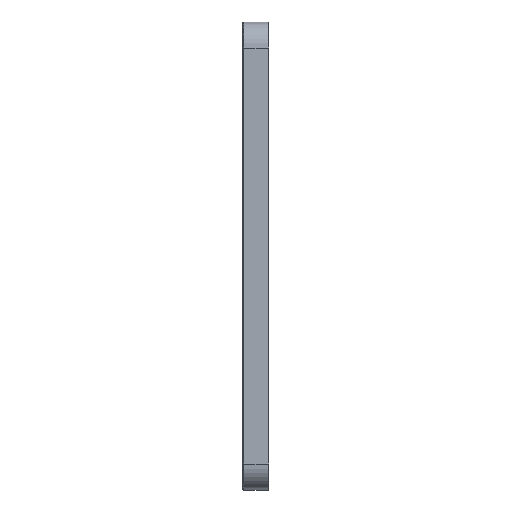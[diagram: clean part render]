
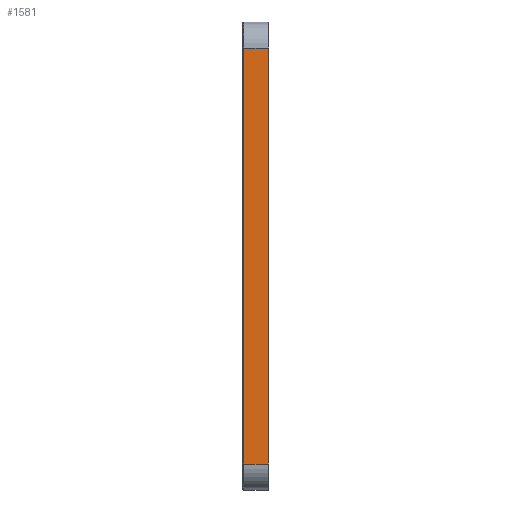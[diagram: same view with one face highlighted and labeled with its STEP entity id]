
A CAD part, left-side view. The second image highlights one B-rep face of the part: STEP entity #1581.
In plain terms, the highlighted planar face has unit normal (-1, 0, 0).
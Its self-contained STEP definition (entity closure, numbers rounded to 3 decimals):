
#10 = LINE ( 'NONE', #1324, #1430 ) ;
#56 = DIRECTION ( 'NONE',  ( 1., 0., 0. ) ) ;
#366 = EDGE_CURVE ( 'NONE', #1678, #2601, #10, .T. ) ;
#562 = LINE ( 'NONE', #615, #583 ) ;
#583 = VECTOR ( 'NONE', #1415, 1000. ) ;
#611 = ORIENTED_EDGE ( 'NONE', *, *, #1811, .T. ) ;
#615 = CARTESIAN_POINT ( 'NONE',  ( -150., 9.7, -80. ) ) ;
#810 = CARTESIAN_POINT ( 'NONE',  ( -150., 9.7, 80. ) ) ;
#854 = PLANE ( 'NONE',  #1155 ) ;
#865 = DIRECTION ( 'NONE',  ( 0., 0., -1. ) ) ;
#1088 = LINE ( 'NONE', #1909, #1871 ) ;
#1091 = ORIENTED_EDGE ( 'NONE', *, *, #2753, .T. ) ;
#1155 = AXIS2_PLACEMENT_3D ( 'NONE', #1926, #56, #865 ) ;
#1170 = VERTEX_POINT ( 'NONE', #810 ) ;
#1271 = ORIENTED_EDGE ( 'NONE', *, *, #1531, .T. ) ;
#1281 = DIRECTION ( 'NONE',  ( 0., -1., 0. ) ) ;
#1324 = CARTESIAN_POINT ( 'NONE',  ( -150., 0.3, -90. ) ) ;
#1338 = CARTESIAN_POINT ( 'NONE',  ( -150., 9.7, -80. ) ) ;
#1415 = DIRECTION ( 'NONE',  ( 0., 0., -1. ) ) ;
#1430 = VECTOR ( 'NONE', #2348, 1000. ) ;
#1531 = EDGE_CURVE ( 'NONE', #2601, #1170, #1088, .T. ) ;
#1581 = ADVANCED_FACE ( 'NONE', ( #1938 ), #854, .F. ) ;
#1678 = VERTEX_POINT ( 'NONE', #1796 ) ;
#1796 = CARTESIAN_POINT ( 'NONE',  ( -150., 0.3, -80. ) ) ;
#1811 = EDGE_CURVE ( 'NONE', #1170, #2398, #562, .T. ) ;
#1871 = VECTOR ( 'NONE', #2133, 1000. ) ;
#1909 = CARTESIAN_POINT ( 'NONE',  ( -150., 10., 80. ) ) ;
#1926 = CARTESIAN_POINT ( 'NONE',  ( -150., 10., -90. ) ) ;
#1938 = FACE_OUTER_BOUND ( 'NONE', #2455, .T. ) ;
#2044 = ORIENTED_EDGE ( 'NONE', *, *, #366, .T. ) ;
#2133 = DIRECTION ( 'NONE',  ( 0., 1., 0. ) ) ;
#2183 = LINE ( 'NONE', #2594, #2328 ) ;
#2328 = VECTOR ( 'NONE', #1281, 1000. ) ;
#2348 = DIRECTION ( 'NONE',  ( 0., 0., 1. ) ) ;
#2398 = VERTEX_POINT ( 'NONE', #1338 ) ;
#2455 = EDGE_LOOP ( 'NONE', ( #1271, #611, #1091, #2044 ) ) ;
#2594 = CARTESIAN_POINT ( 'NONE',  ( -150., 10., -80. ) ) ;
#2601 = VERTEX_POINT ( 'NONE', #2733 ) ;
#2733 = CARTESIAN_POINT ( 'NONE',  ( -150., 0.3, 80. ) ) ;
#2753 = EDGE_CURVE ( 'NONE', #2398, #1678, #2183, .T. ) ;
